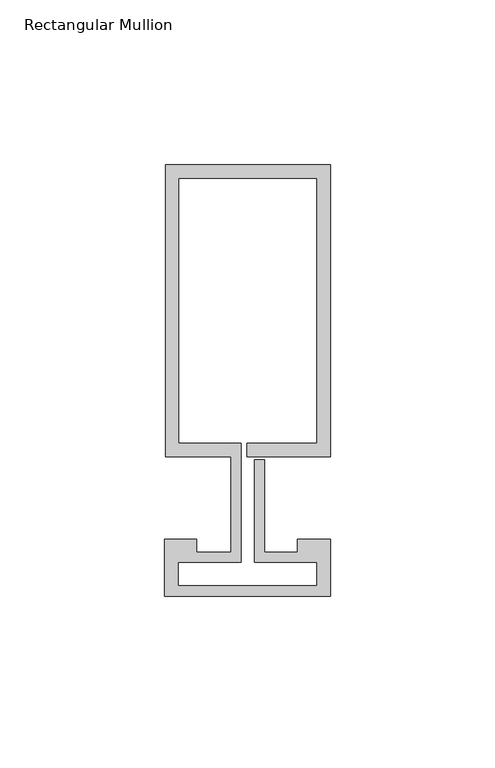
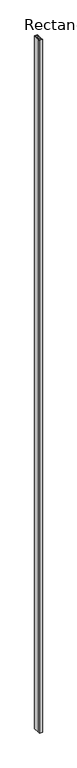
"""IFC4 building model written with IfcOpenShell, lengths in millimetres: member geometry, Rectangular Mullion : Reynaers_CW-50_Mullion-Transom_Horizontal_88.4mm_Facecap-02B."""

from ifc_helpers import new_model, si_unit, frame, origin, place, context, project, spatial, polyline, outline, extrude, source, transform, mapped, element, save


def rectangular_mullion_36b3f704(model_context):
    return source(origin(), model_context, "Body", "SweptSolid", [
        extrude(outline(polyline([(-24.8004059, 100.9), (25.1995941, 100.9), (25.1995941, 12.5), (0.0, 12.5), (0.0, 16.5), (21.1995941, 16.5), (21.1995941, 96.9), (-20.8004059, 96.9), (-20.8004059, 16.5), (-1.9004059, 16.5), (-1.9004059, -19.5), (-20.994845, -19.5), (-20.994845, -26.7191338), (21.1995941, -26.7191338), (21.1995941, -19.5), (2.2995941, -19.5), (2.2995941, 11.5), (5.2995941, 11.5), (5.2995941, -16.5), (15.2996495, -16.5), (15.2996495, -12.5), (25.1995941, -12.5), (25.1995941, -29.8), (-24.994845, -29.8), (-24.994845, -12.5), (-15.2996495, -12.5), (-15.2996495, -16.5), (-4.9004059, -16.5), (-4.9004059, 12.5), (-24.8004059, 12.5), (-24.8004059, 100.9)])), frame((0.0, 0.0, -12000.0), z_axis=(0.0, 0.0, 1.0), x_axis=(1.0, 0.0, 0.0)), (0.0, 0.0, 1.0), 12000.0),
    ])


if __name__ == "__main__":
    model = new_model("IFC4")
    model_context = context("Model", 3, world=origin())
    ifc_project = project(units=[si_unit("LENGTHUNIT", "METRE", prefix="MILLI")], contexts=[model_context])
    site = spatial("IfcSite", under=ifc_project)
    building = spatial("IfcBuilding", under=site)
    placement = place(None, origin())
    rectangular_mullion_shape = rectangular_mullion_36b3f704(model_context)
    element("IfcMember", 1, ObjectType="Rectangular Mullion : Reynaers_CW-50_Mullion-Transom_Horizontal_88.4mm_Facecap-02B", at=placement, inside=building, context=model_context, shape_type="MappedRepresentation", body=[
        mapped(rectangular_mullion_shape, transform((0.0, 0.0, 0.0), x_axis=(1.0, 0.0, 0.0), y_axis=(0.0, 1.0, 0.0), z_axis=(0.0, 0.0, 1.0))),
    ])
    save(model, "model.ifc")
